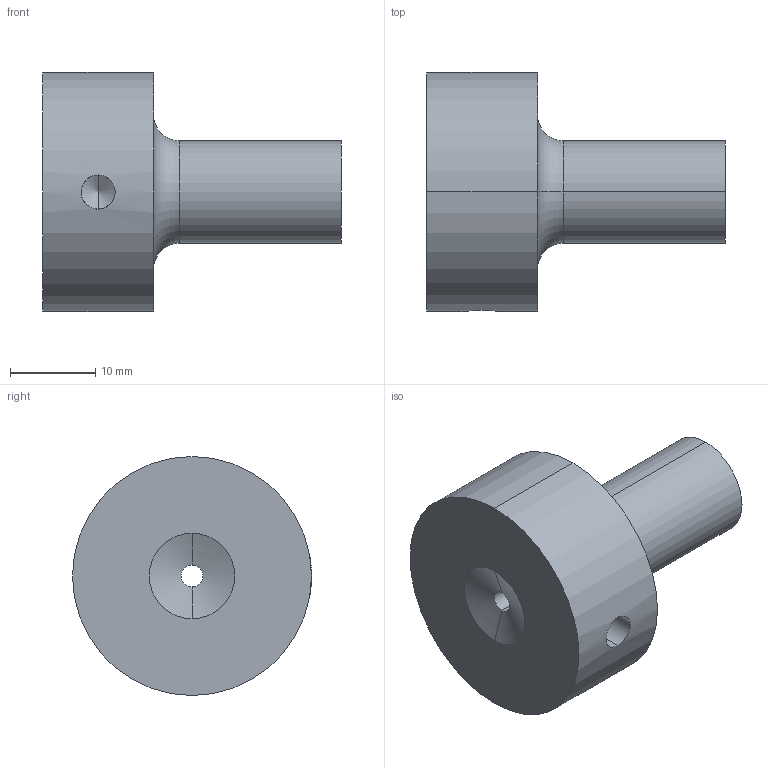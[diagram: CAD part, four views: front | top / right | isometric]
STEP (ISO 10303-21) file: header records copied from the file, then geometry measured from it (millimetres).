
FILE_DESCRIPTION (( 'STEP AP214' ), '1' );
FILE_NAME ('BR511 12X22X2,5X40.STEP', '2019-12-11T07:56:13', ( 'August' ), ( '' ), 'SwSTEP 2.0', 'SolidWorks 2018', '' );
FILE_SCHEMA (( 'AUTOMOTIVE_DESIGN' ));
Length unit declared in the file: millimetre
Products named in the file (1): BR511 12X22X2,5X40
Bounding box: 35 x 28 x 28 mm (x, y, z)
Volume: 10185.9 mm3; surface area: 3556.9 mm2
Topology: 1 solids, 1 shells, 17 faces, 36 edges, 21 vertices
Faces by surface type: cylinder 6, cone 4, torus 4, plane 3
Entity records: 538 total; most frequent: CARTESIAN_POINT 127, DIRECTION 90, ORIENTED_EDGE 68, AXIS2_PLACEMENT_3D 40, EDGE_CURVE 34, CIRCLE 22, VERTEX_POINT 21, EDGE_LOOP 21
